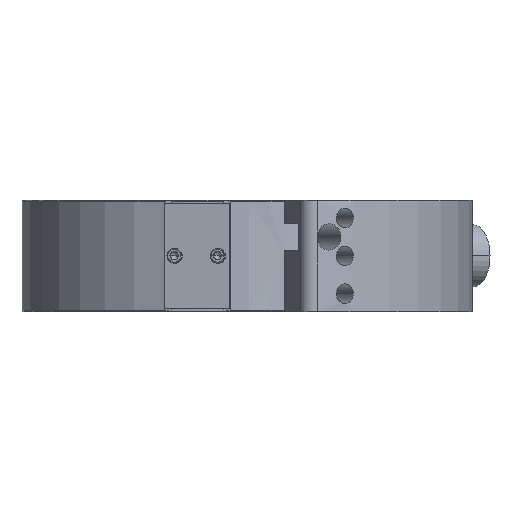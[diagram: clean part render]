
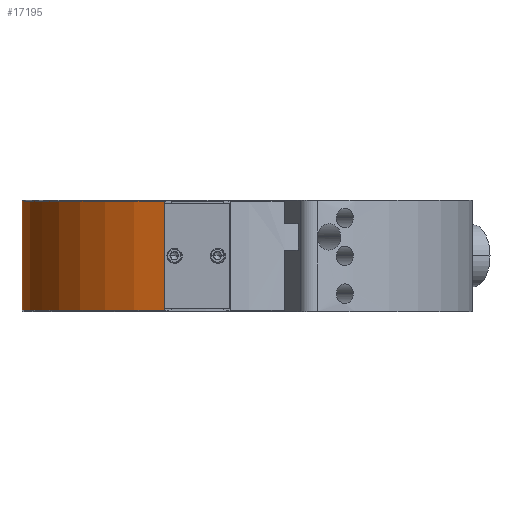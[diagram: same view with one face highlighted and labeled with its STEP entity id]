
A CAD part, left-side view. The second image highlights one B-rep face of the part: STEP entity #17195.
In plain terms, the highlighted cylindrical face has radius 47.371 mm (diameter 94.742 mm), a partial arc.
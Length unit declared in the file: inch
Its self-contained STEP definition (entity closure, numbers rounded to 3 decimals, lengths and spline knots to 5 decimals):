
#1880 = DIRECTION ( 'NONE',  ( 0., 0., 1. ) ) ;
#2471 = CARTESIAN_POINT ( 'NONE',  ( -1.89444, 0.86716, -0.19286 ) ) ;
#2568 = EDGE_LOOP ( 'NONE', ( #12895, #4955, #3872, #8390, #16149, #10383 ) ) ;
#3168 = EDGE_CURVE ( 'NONE', #14401, #16857, #18411, .T. ) ;
#3437 = EDGE_CURVE ( 'NONE', #10969, #16857, #12619, .T. ) ;
#3872 = ORIENTED_EDGE ( 'NONE', *, *, #22744, .T. ) ;
#4032 = CARTESIAN_POINT ( 'NONE',  ( 1.76654, 0.36448, 0.85714 ) ) ;
#4391 = FACE_OUTER_BOUND ( 'NONE', #2568, .T. ) ;
#4586 = VERTEX_POINT ( 'NONE', #33297 ) ;
#4955 = ORIENTED_EDGE ( 'NONE', *, *, #30229, .T. ) ;
#5305 = DIRECTION ( 'NONE',  ( -0.104, -0.995, 0. ) ) ;
#5436 = LINE ( 'NONE', #2471, #24056 ) ;
#6274 = VECTOR ( 'NONE', #20477, 39.37008 ) ;
#8390 = ORIENTED_EDGE ( 'NONE', *, *, #9834, .T. ) ;
#8539 = CARTESIAN_POINT ( 'NONE',  ( -1.89444, 0.86716, -0.19286 ) ) ;
#8731 = EDGE_CURVE ( 'NONE', #22458, #14401, #30693, .T. ) ;
#9495 = DIRECTION ( 'NONE',  ( 0., 0., 1. ) ) ;
#9618 = CARTESIAN_POINT ( 'NONE',  ( -0.09846, 0.36448, -0.19286 ) ) ;
#9834 = EDGE_CURVE ( 'NONE', #4586, #10969, #5436, .T. ) ;
#10383 = ORIENTED_EDGE ( 'NONE', *, *, #3168, .F. ) ;
#10969 = VERTEX_POINT ( 'NONE', #18983 ) ;
#12379 = CARTESIAN_POINT ( 'NONE',  ( -0.09846, 0.36448, -0.18286 ) ) ;
#12392 = VECTOR ( 'NONE', #21225, 39.37008 ) ;
#12619 = LINE ( 'NONE', #23380, #14263 ) ;
#12895 = ORIENTED_EDGE ( 'NONE', *, *, #8731, .F. ) ;
#13286 = VERTEX_POINT ( 'NONE', #27614 ) ;
#14263 = VECTOR ( 'NONE', #20838, 39.37008 ) ;
#14288 = CYLINDRICAL_SURFACE ( 'NONE', #16625, 1.865 ) ;
#14401 = VERTEX_POINT ( 'NONE', #4032 ) ;
#16149 = ORIENTED_EDGE ( 'NONE', *, *, #3437, .T. ) ;
#16268 = CARTESIAN_POINT ( 'NONE',  ( -0.09846, 0.36448, 0.85714 ) ) ;
#16625 = AXIS2_PLACEMENT_3D ( 'NONE', #9618, #9495, #20213 ) ;
#16857 = VERTEX_POINT ( 'NONE', #23242 ) ;
#17195 = ADVANCED_FACE ( 'NONE', ( #4391 ), #14288, .T. ) ;
#18411 = CIRCLE ( 'NONE', #26327, 1.865 ) ;
#18983 = CARTESIAN_POINT ( 'NONE',  ( -1.89444, 0.86716, 0.83714 ) ) ;
#20005 = AXIS2_PLACEMENT_3D ( 'NONE', #12379, #1880, #22544 ) ;
#20213 = DIRECTION ( 'NONE',  ( 1., 0., 0. ) ) ;
#20477 = DIRECTION ( 'NONE',  ( 0., 0., 1. ) ) ;
#20815 = CARTESIAN_POINT ( 'NONE',  ( 1.76654, 0.36448, -0.19286 ) ) ;
#20838 = DIRECTION ( 'NONE',  ( 0., 0., 1. ) ) ;
#21131 = DIRECTION ( 'NONE',  ( 0., 0., 1. ) ) ;
#21225 = DIRECTION ( 'NONE',  ( 0., 0., 1. ) ) ;
#21588 = CIRCLE ( 'NONE', #20005, 1.865 ) ;
#22458 = VERTEX_POINT ( 'NONE', #31110 ) ;
#22544 = DIRECTION ( 'NONE',  ( 1., 0., 0. ) ) ;
#22744 = EDGE_CURVE ( 'NONE', #13286, #4586, #27287, .T. ) ;
#23242 = CARTESIAN_POINT ( 'NONE',  ( -1.89444, 0.86716, 0.85714 ) ) ;
#23380 = CARTESIAN_POINT ( 'NONE',  ( -1.89444, 0.86716, 0.86718 ) ) ;
#23721 = DIRECTION ( 'NONE',  ( 0., 0., 1. ) ) ;
#24056 = VECTOR ( 'NONE', #23721, 39.37008 ) ;
#26327 = AXIS2_PLACEMENT_3D ( 'NONE', #16268, #21131, #5305 ) ;
#27287 = LINE ( 'NONE', #8539, #12392 ) ;
#27614 = CARTESIAN_POINT ( 'NONE',  ( -1.89444, 0.86716, -0.18286 ) ) ;
#30229 = EDGE_CURVE ( 'NONE', #22458, #13286, #21588, .T. ) ;
#30693 = LINE ( 'NONE', #20815, #6274 ) ;
#31110 = CARTESIAN_POINT ( 'NONE',  ( 1.76654, 0.36448, -0.18286 ) ) ;
#33297 = CARTESIAN_POINT ( 'NONE',  ( -1.89444, 0.86716, -0.16286 ) ) ;
